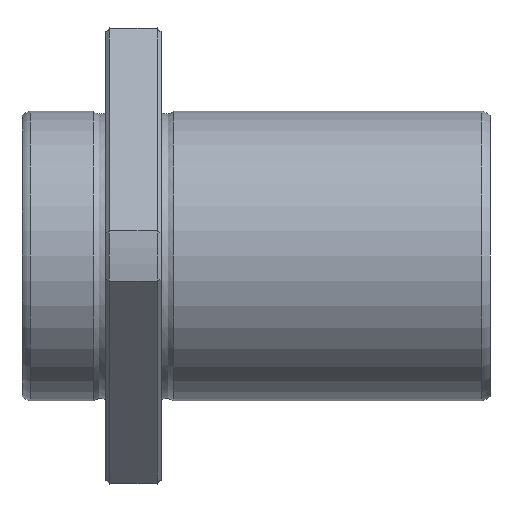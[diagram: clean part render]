
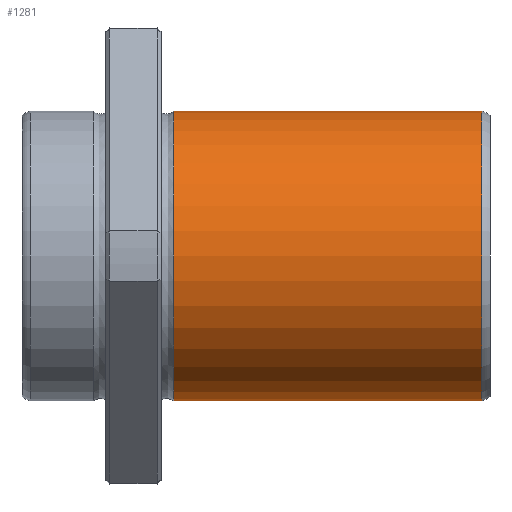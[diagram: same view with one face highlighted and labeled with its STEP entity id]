
A CAD part, front view. The second image highlights one B-rep face of the part: STEP entity #1281.
In plain terms, the highlighted cylindrical face has radius 26 mm (diameter 52 mm), a full revolution.
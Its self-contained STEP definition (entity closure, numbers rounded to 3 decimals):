
#1247=CARTESIAN_POINT('',(82.502,0.0,26.));
#1248=VERTEX_POINT('',#1247);
#1249=CARTESIAN_POINT('',(82.502,0.0,0.0));
#1250=DIRECTION('',(-1.0,0.0,0.0));
#1251=DIRECTION('',(0.0,0.0,1.0));
#1252=AXIS2_PLACEMENT_3D('',#1249,#1250,#1251);
#1253=CIRCLE('',#1252,26.);
#1254=EDGE_CURVE('',#1248,#1248,#1253,.T.);
#1262=CARTESIAN_POINT('',(54.862,0.0,0.0));
#1263=DIRECTION('',(-1.0,0.0,0.0));
#1264=DIRECTION('',(0.0,0.0,1.0));
#1265=AXIS2_PLACEMENT_3D('',#1262,#1263,#1264);
#1266=CYLINDRICAL_SURFACE('',#1265,26.);
#1267=CARTESIAN_POINT('',(27.223,0.0,26.));
#1268=VERTEX_POINT('',#1267);
#1269=CARTESIAN_POINT('',(27.223,0.0,0.0));
#1270=DIRECTION('',(-1.0,0.0,0.0));
#1271=DIRECTION('',(0.0,0.0,1.0));
#1272=AXIS2_PLACEMENT_3D('',#1269,#1270,#1271);
#1273=CIRCLE('',#1272,26.);
#1274=EDGE_CURVE('',#1268,#1268,#1273,.T.);
#1275=ORIENTED_EDGE('',*,*,#1274,.F.);
#1276=EDGE_LOOP('',(#1275));
#1277=FACE_OUTER_BOUND('',#1276,.T.);
#1278=ORIENTED_EDGE('',*,*,#1254,.T.);
#1279=EDGE_LOOP('',(#1278));
#1280=FACE_BOUND('',#1279,.T.);
#1281=ADVANCED_FACE('',(#1277,#1280),#1266,.T.);
